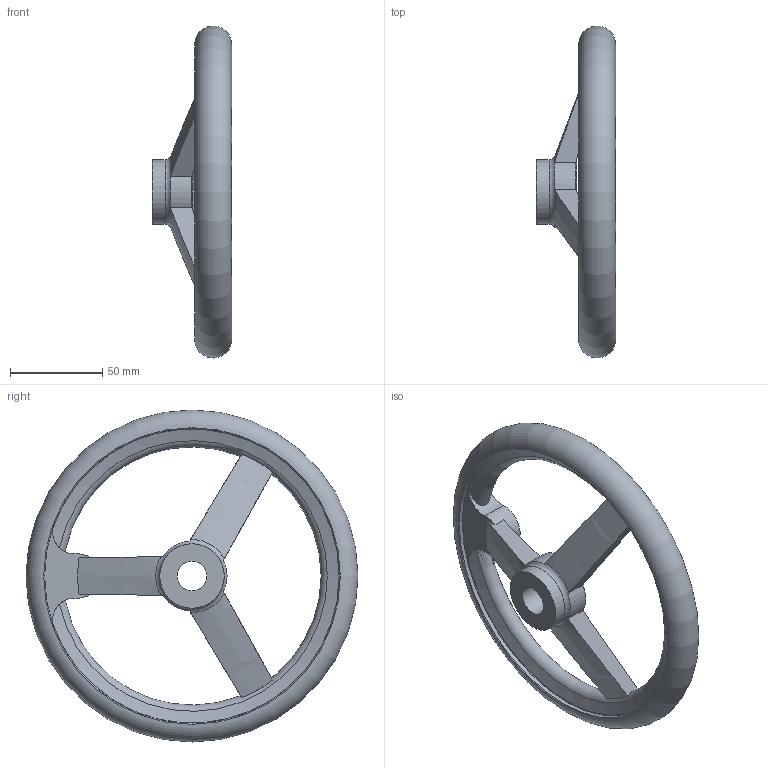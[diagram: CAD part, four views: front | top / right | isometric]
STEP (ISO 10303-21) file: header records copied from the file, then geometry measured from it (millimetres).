
FILE_DESCRIPTION( ( 'STEP AP203' ), '1' );
FILE_NAME( 'C:/Temp/Ganter_Step_05_03_2020/data/1_3/din_950/din_950_b/din_950_b_a/Handwheel DIN 950-AL-180-B16-A.stp', '2020-03-05T10:29:20', ( 'License CC BY-ND 4.0' ), ( 'CADENAS' ), ' ', 'PARTsolutions', ' ' );
FILE_SCHEMA( ( 'CONFIG_CONTROL_DESIGN' ) );
Length unit declared in the file: millimetre
Products named in the file (1): _Handwheel DIN 950-AL-180-B16-A
Bounding box: 43 x 179.99 x 179.99 mm (x, y, z)
Volume: 185329.2 mm3; surface area: 46692.7 mm2
Topology: 1 solids, 1 shells, 39 faces, 114 edges, 73 vertices
Faces by surface type: torus 12, cylinder 11, plane 10, cone 6
Full cylindrical faces by diameter (mm): 16 x1, 35 x2, 160 x2
Entity records: 1598 total; most frequent: CARTESIAN_POINT 624, ORIENTED_EDGE 194, DIRECTION 180, EDGE_CURVE 97, AXIS2_PLACEMENT_3D 84, VERTEX_POINT 70, EDGE_LOOP 56, FACE_OUTER_BOUND 51
